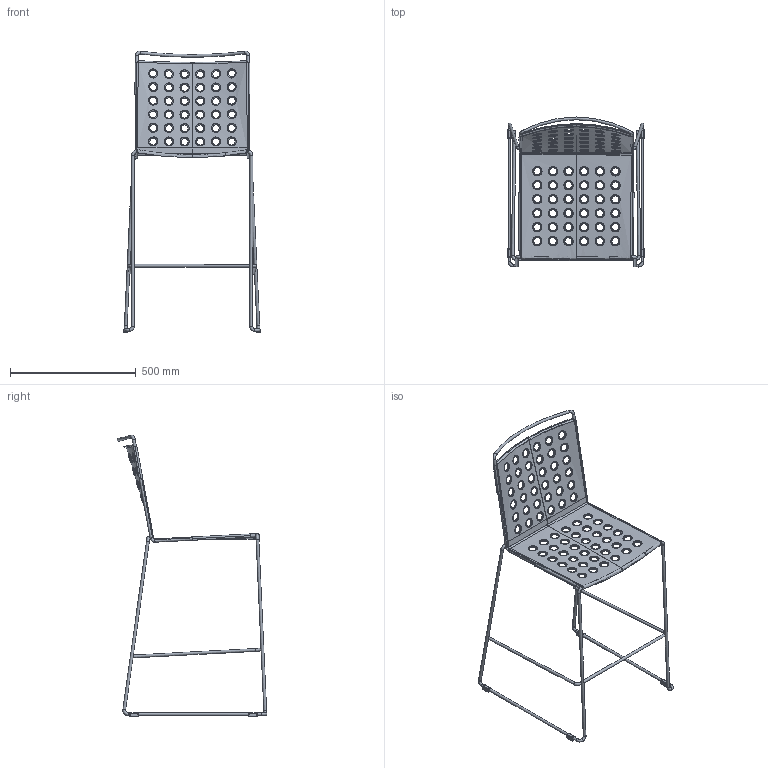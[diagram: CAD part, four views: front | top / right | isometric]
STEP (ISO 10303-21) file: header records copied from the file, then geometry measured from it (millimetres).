
FILE_DESCRIPTION(('STEP AP203'),'1');
FILE_NAME('Sgabello Alto Busy.step','2018-07-12T14:24:31',(' '),(' '),'Spatial InterOp 3D',' ',' ');
FILE_SCHEMA(('CONFIG_CONTROL_DESIGN'));
Length unit declared in the file: millimetre
Products named in the file (1): 1
Bounding box: 546.39 x 593.81 x 1118.59 mm (x, y, z)
Volume: 1601897.7 mm3; surface area: 1009005.7 mm2
Topology: 118 solids, 118 shells, 3929 faces, 9796 edges, 6337 vertices
Faces by surface type: plane 2206, cylinder 999, extrusion 360, bspline 182, torus 164, sphere 16, offset 2
Full cylindrical faces by diameter (mm): 1.6 x8, 3.6 x8, 5.7 x8, 6 x24, 11 x23, 36 x4, 37 x8
Entity records: 154479 total; most frequent: CARTESIAN_POINT 68652, ORIENTED_EDGE 18460, DIRECTION 15016, EDGE_CURVE 9230, VERTEX_POINT 6128, AXIS2_PLACEMENT_3D 5598, EDGE_LOOP 4872, FACE_OUTER_BOUND 4224
